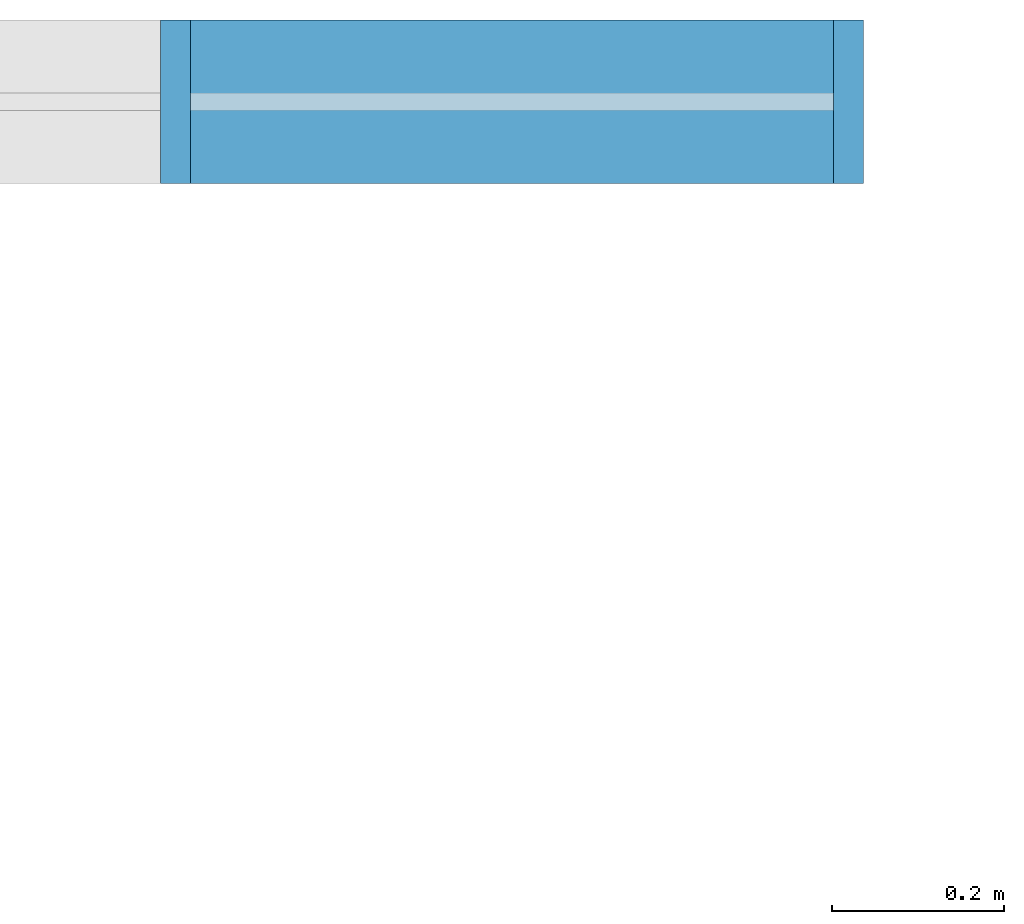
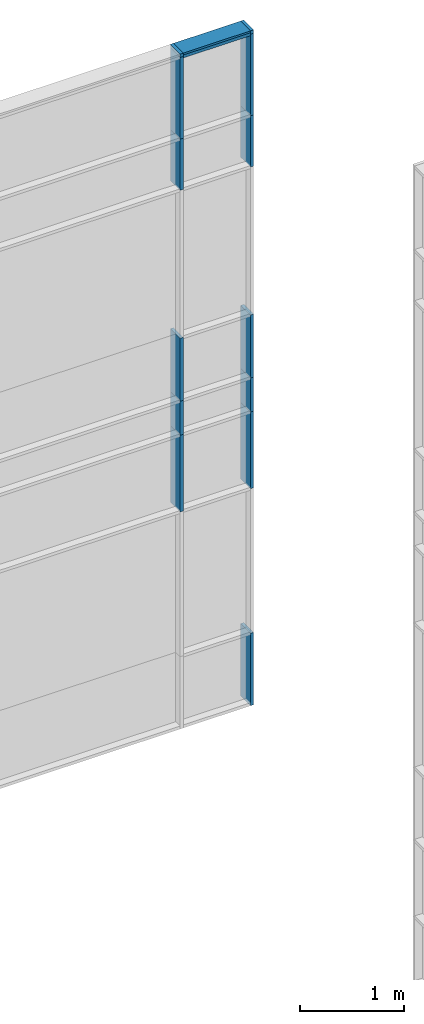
# One storey, part 21 of 73: 15 members, 1 element without a shape of its own.
"""IFC2X3 building model written with IfcOpenShell, lengths in millimetres."""

from ifc_helpers import new_model, entity, si_unit, converted_unit, derived_unit, direction, frame, origin, origin_2d_with_axis, place, context, subcontext, project, spatial, rectangle, extrude, source, transform, mapped, material, type_object, type_shapes, element, aggregate, save


model = new_model("IFC2X3")

# Units and contexts
model_context = context("Model", 3, precision=0.01, world=origin(), true_north=direction((6.12303176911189e-17, 1.0)))
body_context = subcontext(model_context, "Body", "Model", "MODEL_VIEW")
ifc_project = project(units=[si_unit("LENGTHUNIT", "METRE", prefix="MILLI"), si_unit("AREAUNIT", "SQUARE_METRE"), si_unit("VOLUMEUNIT", "CUBIC_METRE"), converted_unit("PLANEANGLEUNIT", "DEGREE", entity("IfcRatioMeasure", 0.0174532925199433), si_unit("PLANEANGLEUNIT", "RADIAN"), dimensions=[0, 0, 0, 0, 0, 0, 0]), si_unit("MASSUNIT", "GRAM", prefix="KILO"), derived_unit("MASSDENSITYUNIT", [(si_unit("MASSUNIT", "GRAM", prefix="KILO"), 1), (si_unit("LENGTHUNIT", "METRE"), -3)]), si_unit("TIMEUNIT", "SECOND"), si_unit("FREQUENCYUNIT", "HERTZ"), si_unit("THERMODYNAMICTEMPERATUREUNIT", "DEGREE_CELSIUS"), derived_unit("THERMALTRANSMITTANCEUNIT", [(si_unit("MASSUNIT", "GRAM", prefix="KILO"), 1), (si_unit("THERMODYNAMICTEMPERATUREUNIT", "KELVIN"), -1), (si_unit("TIMEUNIT", "SECOND"), -3)]), derived_unit("VOLUMETRICFLOWRATEUNIT", [(si_unit("LENGTHUNIT", "METRE"), 3), (si_unit("TIMEUNIT", "SECOND"), -1)]), si_unit("ELECTRICCURRENTUNIT", "AMPERE"), si_unit("ELECTRICVOLTAGEUNIT", "VOLT"), si_unit("POWERUNIT", "WATT"), si_unit("FORCEUNIT", "NEWTON", prefix="KILO"), si_unit("ILLUMINANCEUNIT", "LUX"), si_unit("LUMINOUSFLUXUNIT", "LUMEN"), si_unit("LUMINOUSINTENSITYUNIT", "CANDELA"), derived_unit("USERDEFINED", [(si_unit("MASSUNIT", "GRAM", prefix="KILO"), -1), (si_unit("LENGTHUNIT", "METRE"), -2), (si_unit("TIMEUNIT", "SECOND"), 3), (si_unit("LUMINOUSFLUXUNIT", "LUMEN"), 1)]), derived_unit("LINEARVELOCITYUNIT", [(si_unit("LENGTHUNIT", "METRE"), 1), (si_unit("TIMEUNIT", "SECOND"), -1)]), si_unit("PRESSUREUNIT", "PASCAL"), derived_unit("USERDEFINED", [(si_unit("LENGTHUNIT", "METRE"), -2), (si_unit("MASSUNIT", "GRAM", prefix="KILO"), 1), (si_unit("TIMEUNIT", "SECOND"), -2)])], contexts=[model_context])

# Site, building, storey
site_placement = place(None, frame((-151.875543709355, 2715.0, 0.0)))
site = spatial("IfcSite", under=ifc_project, at=site_placement, Name="Surface", CompositionType="ELEMENT")
building_placement = place(site_placement, origin())
building = spatial("IfcBuilding", under=site, at=building_placement, CompositionType="ELEMENT")
storey_placement = place(building_placement, frame((0.0, 0.0, 6730.43000000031)))
storey = spatial("IfcBuildingStorey", under=building, at=storey_placement, Name="3 korrus", CompositionType="ELEMENT", Elevation=6730.43000000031)

# Curtain wall, members
curtain_wall_type = type_object("IfcCurtainWallType", Name="Curtain Wall:Klaasfassaad2", PredefinedType="NOTDEFINED")
curtain_wall_placement = place(storey_placement, frame((0.0, 0.0, -6730.43000000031)))
curtain_wall = element("IfcCurtainWall", 1, at=curtain_wall_placement, inside=storey, type_object=curtain_wall_type, Name="Curtain Wall:Klaasfassaad2", ObjectType="Curtain Wall:Klaasfassaad2")
ifc_material = material(Name="Steel/Aluminium")
member_type_1 = type_object("IfcMemberType", Name="35 x 190mm", PredefinedType="MEMBER")
shared_shape_1 = source(origin(), body_context, "Body", "SweptSolid", [
    extrude(rectangle(XDim=190.0, YDim=35.0, at=origin_2d_with_axis()), frame((-17.5, 0.0, -40.0), z_axis=(0.0, 0.0, 1.0), x_axis=(0.0, -1.0, 0.0)), (0.0, 0.0, 1.0), 39.9999999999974),
])
type_shapes(member_type_1, [shared_shape_1])
member_1_placement = place(storey_placement, frame((38406.6162682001, 26624.0, 5074.47692901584)))
member_1 = element("IfcMember", 2, at=member_1_placement, type_object=member_type_1, material=ifc_material, Name="Rectangular Mullion:35 x 190mm", ObjectType="35 x 190mm", context=body_context, shape_type="MappedRepresentation", body=[
    mapped(shared_shape_1, transform((0.0, 0.0, 0.0), scale=1.0)),
])
member_type_2 = type_object("IfcMemberType", Name="35 x 190mm", PredefinedType="MEMBER")
shared_shape_2 = source(origin(), body_context, "Body", "SweptSolid", [
    extrude(rectangle(XDim=190.0, YDim=35.0, at=origin_2d_with_axis()), frame((-17.5, 0.0, -600.0), z_axis=(0.0, 0.0, 1.0), x_axis=(0.0, -1.0, 0.0)), (0.0, 0.0, 1.0), 600.000000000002),
])
type_shapes(member_type_2, [shared_shape_2])
member_2_placement = place(storey_placement, frame((38406.6162682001, 26624.0, 4074.47692901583)))
member_2 = element("IfcMember", 3, at=member_2_placement, type_object=member_type_2, material=ifc_material, Name="Rectangular Mullion:35 x 190mm", ObjectType="35 x 190mm", context=body_context, shape_type="MappedRepresentation", body=[
    mapped(shared_shape_2, transform((0.0, 0.0, 0.0), scale=1.0)),
])
member_type_3 = type_object("IfcMemberType", Name="35 x 190mm", PredefinedType="MEMBER")
shared_shape_3 = source(origin(), body_context, "Body", "SweptSolid", [
    extrude(rectangle(XDim=190.0, YDim=35.0, at=origin_2d_with_axis()), frame((-17.5, 0.0, -400.0), z_axis=(0.0, 0.0, 1.0), x_axis=(0.0, -1.0, 0.0)), (0.0, 0.0, 1.0), 400.0),
])
type_shapes(member_type_3, [shared_shape_3])
member_3_placement = place(storey_placement, frame((38406.6162682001, 26624.0, 994.476929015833)))
member_3 = element("IfcMember", 4, at=member_3_placement, type_object=member_type_3, material=ifc_material, Name="Rectangular Mullion:35 x 190mm", ObjectType="35 x 190mm", context=body_context, shape_type="MappedRepresentation", body=[
    mapped(shared_shape_3, transform((0.0, 0.0, 0.0), scale=1.0)),
])
member_type_4 = type_object("IfcMemberType", Name="35 x 190mm", PredefinedType="MEMBER")
shared_shape_4 = source(origin(), body_context, "Body", "SweptSolid", [
    extrude(rectangle(XDim=190.0, YDim=35.0, at=origin_2d_with_axis()), frame((-17.5, 0.0, -900.0), z_axis=(0.0, 0.0, 1.0), x_axis=(0.0, -1.0, 0.0)), (0.0, 0.0, 1.0), 900.000000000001),
])
type_shapes(member_type_4, [shared_shape_4])
member_4_placement = place(storey_placement, frame((38406.6162682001, 26624.0, 594.476929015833)))
member_4 = element("IfcMember", 5, at=member_4_placement, type_object=member_type_4, material=ifc_material, Name="Rectangular Mullion:35 x 190mm", ObjectType="35 x 190mm", context=body_context, shape_type="MappedRepresentation", body=[
    mapped(shared_shape_4, transform((0.0, 0.0, 0.0), scale=1.0)),
])
member_type_5 = type_object("IfcMemberType", Name="35 x 190mm", PredefinedType="MEMBER")
shared_shape_5 = source(origin(), body_context, "Body", "SweptSolid", [
    extrude(rectangle(XDim=190.0, YDim=35.0, at=origin_2d_with_axis()), frame((-17.5, 0.0, -740.0), z_axis=(0.0, 0.0, 1.0), x_axis=(0.0, -1.0, 0.0)), (0.0, 0.0, 1.0), 740.000000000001),
])
type_shapes(member_type_5, [shared_shape_5])
member_5_placement = place(storey_placement, frame((38406.6162682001, 26624.0, 1734.47692901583)))
member_5 = element("IfcMember", 6, at=member_5_placement, type_object=member_type_5, material=ifc_material, Name="Rectangular Mullion:35 x 190mm", ObjectType="35 x 190mm", context=body_context, shape_type="MappedRepresentation", body=[
    mapped(shared_shape_5, transform((0.0, 0.0, 0.0), scale=1.0)),
])
member_type_6 = type_object("IfcMemberType", Name="35 x 190mm", PredefinedType="MEMBER")
shared_shape_6 = source(origin(), body_context, "Body", "SweptSolid", [
    extrude(rectangle(XDim=190.0, YDim=35.0, at=origin_2d_with_axis()), frame((-17.5, 0.0, -850.159729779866), z_axis=(0.0, 0.0, 1.0), x_axis=(0.0, -1.0, 0.0)), (0.0, 0.0, 1.0), 850.159729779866),
])
type_shapes(member_type_6, [shared_shape_6])
member_6_placement = place(storey_placement, frame((38406.6162682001, 26624.0, -2005.8425305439)))
member_6 = element("IfcMember", 7, at=member_6_placement, type_object=member_type_6, material=ifc_material, Name="Rectangular Mullion:35 x 190mm", ObjectType="35 x 190mm", context=body_context, shape_type="MappedRepresentation", body=[
    mapped(shared_shape_6, transform((0.0, 0.0, 0.0), scale=1.0)),
])
member_type_7 = type_object("IfcMemberType", Name="35 x 190mm", PredefinedType="MEMBER")
shared_shape_7 = source(origin(), body_context, "Body", "SweptSolid", [
    extrude(rectangle(XDim=190.0, YDim=35.0, at=origin_2d_with_axis()), frame((-17.5, 0.0, -960.0), z_axis=(0.0, 0.0, 1.0), x_axis=(0.0, -1.0, 0.0)), (0.0, 0.0, 1.0), 960.000000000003),
])
type_shapes(member_type_7, [shared_shape_7])
member_7_placement = place(storey_placement, frame((38406.6162682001, 26624.0, 5034.47692901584)))
member_7 = element("IfcMember", 8, at=member_7_placement, type_object=member_type_7, material=ifc_material, Name="Rectangular Mullion:35 x 190mm", ObjectType="35 x 190mm", context=body_context, shape_type="MappedRepresentation", body=[
    mapped(shared_shape_7, transform((0.0, 0.0, 0.0), scale=1.0)),
])
member_type_8 = type_object("IfcMemberType", Name="35 x 190mm", PredefinedType="MEMBER")
shared_shape_8 = source(origin(), body_context, "Body", "SweptSolid", [
    extrude(rectangle(XDim=190.0, YDim=35.0, at=origin_2d_with_axis()), frame((0.0, 0.0, -747.499999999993), z_axis=(0.0, 0.0, 1.0), x_axis=(0.0, -1.0, 0.0)), (0.0, 0.0, 1.0), 747.49999999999),
])
type_shapes(member_type_8, [shared_shape_8])
member_8_placement = place(storey_placement, frame((37624.1162682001, 26624.0, 5034.47692901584), z_axis=(-1.0, 0.0, 0.0), x_axis=(0.0, 0.0, 1.0)))
member_8 = element("IfcMember", 9, at=member_8_placement, type_object=member_type_8, material=ifc_material, Name="Rectangular Mullion:35 x 190mm", ObjectType="35 x 190mm", context=body_context, shape_type="MappedRepresentation", body=[
    mapped(shared_shape_8, transform((0.0, 0.0, 0.0), scale=1.0)),
])
member_type_9 = type_object("IfcMemberType", Name="35 x 190mm", PredefinedType="MEMBER")
shared_shape_9 = source(origin(), body_context, "Body", "SweptSolid", [
    extrude(rectangle(XDim=190.0, YDim=35.0, at=origin_2d_with_axis()), frame((-17.5, 0.0, -747.499999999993), z_axis=(0.0, 0.0, 1.0), x_axis=(0.0, -1.0, 0.0)), (0.0, 0.0, 1.0), 747.49999999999),
])
type_shapes(member_type_9, [shared_shape_9])
member_9_placement = place(storey_placement, frame((37624.1162682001, 26624.0, 5074.47692901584), z_axis=(-1.0, 0.0, 0.0), x_axis=(0.0, 0.0, 1.0)))
member_9 = element("IfcMember", 10, at=member_9_placement, type_object=member_type_9, material=ifc_material, Name="Rectangular Mullion:35 x 190mm", ObjectType="35 x 190mm", context=body_context, shape_type="MappedRepresentation", body=[
    mapped(shared_shape_9, transform((0.0, 0.0, 0.0), scale=1.0)),
])
member_type_10 = type_object("IfcMemberType", Name="35 x 190mm", PredefinedType="MEMBER")
shared_shape_10 = source(origin(), body_context, "Body", "SweptSolid", [
    extrude(rectangle(XDim=190.0, YDim=35.0, at=origin_2d_with_axis()), frame((0.0, 0.0, -960.0), z_axis=(0.0, 0.0, 1.0), x_axis=(0.0, -1.0, 0.0)), (0.0, 0.0, 1.0), 960.000000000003),
])
type_shapes(member_type_10, [shared_shape_10])
member_10_placement = place(storey_placement, frame((37606.6162682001, 26624.0, 4074.47692901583), z_axis=(0.0, 0.0, -1.0), x_axis=(-1.0, 0.0, 0.0)))
member_10 = element("IfcMember", 11, at=member_10_placement, type_object=member_type_10, material=ifc_material, Name="Rectangular Mullion:35 x 190mm", ObjectType="35 x 190mm", context=body_context, shape_type="MappedRepresentation", body=[
    mapped(shared_shape_10, transform((0.0, 0.0, 0.0), scale=1.0)),
])
member_type_11 = type_object("IfcMemberType", Name="35 x 190mm", PredefinedType="MEMBER")
shared_shape_11 = source(origin(), body_context, "Body", "SweptSolid", [
    extrude(rectangle(XDim=190.0, YDim=35.0, at=origin_2d_with_axis()), frame((0.0, 0.0, -600.0), z_axis=(0.0, 0.0, 1.0), x_axis=(0.0, -1.0, 0.0)), (0.0, 0.0, 1.0), 600.000000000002),
])
type_shapes(member_type_11, [shared_shape_11])
member_11_placement = place(storey_placement, frame((37606.6162682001, 26624.0, 3474.47692901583), z_axis=(0.0, 0.0, -1.0), x_axis=(-1.0, 0.0, 0.0)))
member_11 = element("IfcMember", 12, at=member_11_placement, type_object=member_type_11, material=ifc_material, Name="Rectangular Mullion:35 x 190mm", ObjectType="35 x 190mm", context=body_context, shape_type="MappedRepresentation", body=[
    mapped(shared_shape_11, transform((0.0, 0.0, 0.0), scale=1.0)),
])
member_type_12 = type_object("IfcMemberType", Name="35 x 190mm", PredefinedType="MEMBER")
shared_shape_12 = source(origin(), body_context, "Body", "SweptSolid", [
    extrude(rectangle(XDim=190.0, YDim=35.0, at=origin_2d_with_axis()), frame((0.0, 0.0, -740.0), z_axis=(0.0, 0.0, 1.0), x_axis=(0.0, -1.0, 0.0)), (0.0, 0.0, 1.0), 740.000000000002),
])
type_shapes(member_type_12, [shared_shape_12])
member_12_placement = place(storey_placement, frame((37606.6162682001, 26624.0, 994.476929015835), z_axis=(0.0, 0.0, -1.0), x_axis=(-1.0, 0.0, 0.0)))
member_12 = element("IfcMember", 13, at=member_12_placement, type_object=member_type_12, material=ifc_material, Name="Rectangular Mullion:35 x 190mm", ObjectType="35 x 190mm", context=body_context, shape_type="MappedRepresentation", body=[
    mapped(shared_shape_12, transform((0.0, 0.0, 0.0), scale=1.0)),
])
member_type_13 = type_object("IfcMemberType", Name="35 x 190mm", PredefinedType="MEMBER")
shared_shape_13 = source(origin(), body_context, "Body", "SweptSolid", [
    extrude(rectangle(XDim=190.0, YDim=35.0, at=origin_2d_with_axis()), frame((0.0, 0.0, -400.0), z_axis=(0.0, 0.0, 1.0), x_axis=(0.0, -1.0, 0.0)), (0.0, 0.0, 1.0), 400.0),
])
type_shapes(member_type_13, [shared_shape_13])
member_13_placement = place(storey_placement, frame((37606.6162682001, 26624.0, 594.476929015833), z_axis=(0.0, 0.0, -1.0), x_axis=(-1.0, 0.0, 0.0)))
member_13 = element("IfcMember", 14, at=member_13_placement, type_object=member_type_13, material=ifc_material, Name="Rectangular Mullion:35 x 190mm", ObjectType="35 x 190mm", context=body_context, shape_type="MappedRepresentation", body=[
    mapped(shared_shape_13, transform((0.0, 0.0, 0.0), scale=1.0)),
])
member_type_14 = type_object("IfcMemberType", Name="35 x 190mm", PredefinedType="MEMBER")
shared_shape_14 = source(origin(), body_context, "Body", "SweptSolid", [
    extrude(rectangle(XDim=190.0, YDim=35.0, at=origin_2d_with_axis()), frame((0.0, 0.0, -900.0), z_axis=(0.0, 0.0, 1.0), x_axis=(0.0, -1.0, 0.0)), (0.0, 0.0, 1.0), 900.000000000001),
])
type_shapes(member_type_14, [shared_shape_14])
member_14_placement = place(storey_placement, frame((37606.6162682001, 26624.0, -305.523070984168), z_axis=(0.0, 0.0, -1.0), x_axis=(-1.0, 0.0, 0.0)))
member_14 = element("IfcMember", 15, at=member_14_placement, type_object=member_type_14, material=ifc_material, Name="Rectangular Mullion:35 x 190mm", ObjectType="35 x 190mm", context=body_context, shape_type="MappedRepresentation", body=[
    mapped(shared_shape_14, transform((0.0, 0.0, 0.0), scale=1.0)),
])
member_type_15 = type_object("IfcMemberType", Name="35 x 190mm", PredefinedType="MEMBER")
shared_shape_15 = source(origin(), body_context, "Body", "SweptSolid", [
    extrude(rectangle(XDim=190.0, YDim=35.0, at=origin_2d_with_axis()), frame((0.0, 0.0, -40.0), z_axis=(0.0, 0.0, 1.0), x_axis=(0.0, -1.0, 0.0)), (0.0, 0.0, 1.0), 39.9999999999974),
])
type_shapes(member_type_15, [shared_shape_15])
member_15_placement = place(storey_placement, frame((37606.6162682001, 26624.0, 5034.47692901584), z_axis=(0.0, 0.0, -1.0), x_axis=(-1.0, 0.0, 0.0)))
member_15 = element("IfcMember", 16, at=member_15_placement, type_object=member_type_15, material=ifc_material, Name="Rectangular Mullion:35 x 190mm", ObjectType="35 x 190mm", context=body_context, shape_type="MappedRepresentation", body=[
    mapped(shared_shape_15, transform((0.0, 0.0, 0.0), scale=1.0)),
])
aggregate(curtain_wall, [member_1, member_2, member_3, member_4, member_5, member_6, member_7, member_8, member_9, member_10, member_11, member_12, member_13, member_14, member_15])

save(model, "model.ifc")
